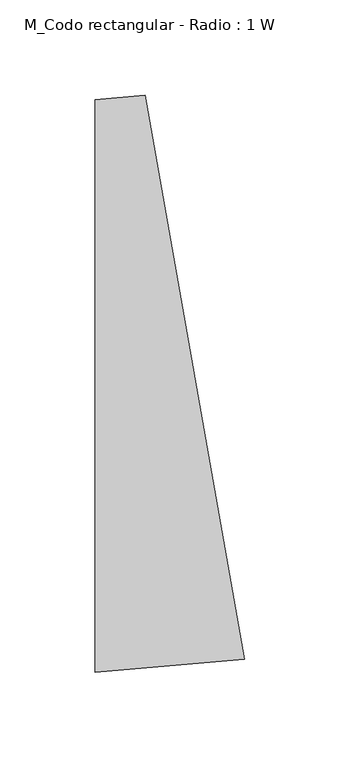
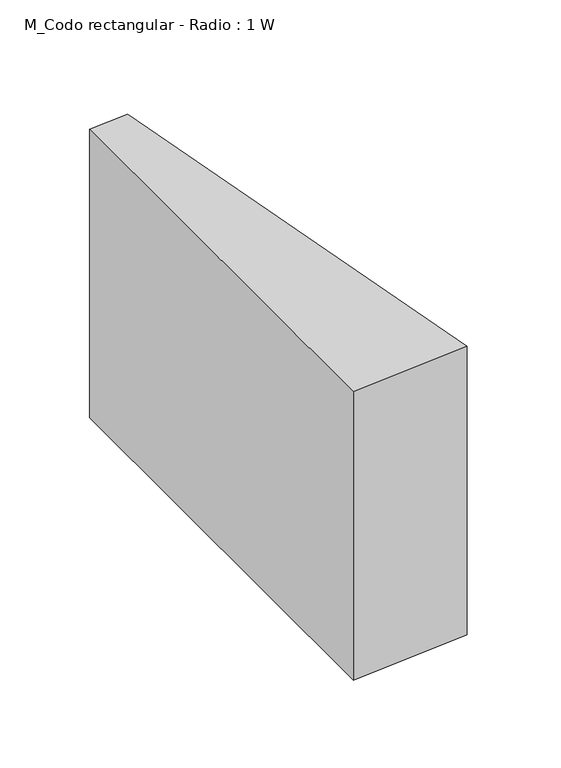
"""IFC4 building model written with IfcOpenShell, lengths in millimetres: duct fitting geometry, M_Codo rectangular - Radio : 1 W."""

import ifcopenshell
import ifcopenshell.guid

model = None  # the IFC model being written
_history = None  # IfcOwnerHistory: only IFC2X3 demands one
_inside = {}  # id of a spatial element -> (the spatial element, [elements in it])
_under = {}  # id of a project, library or spatial element -> (it, [spatial elements below it])
_declared = {}  # id of a project -> (the project, [libraries it declares])
_typed = {}  # id of a type object -> (the type object, [elements of that type])
_made_of = {}  # id of a material, layer set ... -> (it, [elements and type objects made of it])


def new_model(schema):
    """Start an empty IFC model of exactly this schema.

    Asked for "IFC4X3", IfcOpenShell would pick the latest addendum, in which some entities
    have other attributes; the version numbers below select the first issue.
    IFC2X3 requires an IfcOwnerHistory on every rooted entity: one is made here for all.
    """
    global model, _history
    if schema == "IFC4X3":
        model = ifcopenshell.file(schema_version=(4, 3, 0, 0))
    else:
        model = ifcopenshell.file(schema=schema)
    _inside.clear()
    _under.clear()
    _declared.clear()
    _typed.clear()
    _made_of.clear()
    _history = None
    if model.schema == "IFC2X3":
        org = make("IfcOrganization", Name="unknown")
        user = make(
            "IfcPersonAndOrganization",
            ThePerson=make("IfcPerson", FamilyName="unknown"),
            TheOrganization=org,
        )
        app = make(
            "IfcApplication",
            ApplicationDeveloper=org,
            Version="unknown",
            ApplicationFullName="unknown",
            ApplicationIdentifier="unknown",
        )
        _history = make(
            "IfcOwnerHistory",
            OwningUser=user,
            OwningApplication=app,
            ChangeAction="ADDED",
            CreationDate=0,
        )
    return model


def make(cls, **values):
    """One entity of the class cls with the attributes given. An attribute that is None is left unset."""
    return model.create_entity(
        cls, **{name: value for name, value in values.items() if value is not None}
    )


def rooted(cls, **values):
    """An entity with a GlobalId (a new one), such as an element, a storey or a relation."""
    return make(cls, GlobalId=ifcopenshell.guid.new(), OwnerHistory=_history, **values)


def si_unit(unit_type, name, prefix=None):
    """IfcSIUnit, for example si_unit("LENGTHUNIT", "METRE", prefix="MILLI")."""
    return make("IfcSIUnit", UnitType=unit_type, Prefix=prefix, Name=name)


def assignment(units):
    """IfcUnitAssignment: the units of a project."""
    return None if units is None else make("IfcUnitAssignment", Units=units)


def point(xyz):
    """IfcCartesianPoint."""
    return None if xyz is None else make("IfcCartesianPoint", Coordinates=xyz)


def direction(xyz):
    """IfcDirection."""
    return None if xyz is None else make("IfcDirection", DirectionRatios=xyz)


def frame(location, z_axis=None, x_axis=None):
    """IfcAxis2Placement3D, a coordinate frame: its origin and axes. An axis left out is left unset."""
    return make(
        "IfcAxis2Placement3D",
        Location=point(location),
        Axis=direction(z_axis),
        RefDirection=direction(x_axis),
    )


def frame_2d(location, x_axis=None):
    """IfcAxis2Placement2D, a coordinate frame in the plane: its origin and x axis."""
    return make(
        "IfcAxis2Placement2D", Location=point(location), RefDirection=direction(x_axis)
    )


def origin():
    """The frame at (0, 0, 0) with its axes left unset."""
    return frame((0.0, 0.0, 0.0))


def place(relative_to, where):
    """IfcLocalPlacement: puts the frame where relative to a parent placement (None: the world)."""
    return make(
        "IfcLocalPlacement", PlacementRelTo=relative_to, RelativePlacement=where
    )


def context(
    kind, dimensions, precision=None, world=None, true_north=None, identifier=None
):
    """IfcGeometricRepresentationContext, for example the 3D "Model" context."""
    return make(
        "IfcGeometricRepresentationContext",
        ContextIdentifier=identifier,
        ContextType=kind,
        CoordinateSpaceDimension=dimensions,
        Precision=precision,
        WorldCoordinateSystem=world,
        TrueNorth=true_north,
    )


def project(units=None, contexts=None):
    """IfcProject with its units and contexts."""
    return rooted(
        "IfcProject",
        Name="project",
        RepresentationContexts=contexts,
        UnitsInContext=assignment(units),
    )


def spatial(cls, under=None, at=None, **own):
    """A site, building, storey or space (cls), placed at a placement, below another one or the project."""
    s = rooted(cls, ObjectPlacement=at, **own)
    if under is not None:
        _under.setdefault(under.id(), (under, []))[1].append(s)
    return s


def polyline(points):
    """IfcPolyline through the points."""
    return make("IfcPolyline", Points=[point(p) for p in points])


def circle_curve(where, radius):
    """IfcCircle in the frame where."""
    return make("IfcCircle", Position=where, Radius=radius)


def trimmed(basis, trim1, trim2, sense, master):
    """IfcTrimmedCurve: the piece of a basis curve between two trims."""
    return make(
        "IfcTrimmedCurve",
        BasisCurve=basis,
        Trim1=trim1,
        Trim2=trim2,
        SenseAgreement=sense,
        MasterRepresentation=master,
    )


def segment(curve, same_sense, transition):
    """IfcCompositeCurveSegment."""
    return make(
        "IfcCompositeCurveSegment",
        Transition=transition,
        SameSense=same_sense,
        ParentCurve=curve,
    )


def composite_curve(segments, self_intersect=None):
    """IfcCompositeCurve: segments joined end to end."""
    return make("IfcCompositeCurve", Segments=segments, SelfIntersect=self_intersect)


def outline(outer, holes=None, kind="AREA"):
    """IfcArbitraryClosedProfileDef: a profile drawn as a closed curve; with holes, ...WithVoids."""
    if holes is None:
        return make("IfcArbitraryClosedProfileDef", ProfileType=kind, OuterCurve=outer)
    return make(
        "IfcArbitraryProfileDefWithVoids",
        ProfileType=kind,
        OuterCurve=outer,
        InnerCurves=holes,
    )


def extrude(swept, where, along, depth):
    """IfcExtrudedAreaSolid: the profile swept, set in the frame where, extruded along a direction by depth."""
    return make(
        "IfcExtrudedAreaSolid",
        SweptArea=swept,
        Position=where,
        ExtrudedDirection=direction(along),
        Depth=depth,
    )


def shape(context_of_items, identifier, shape_type, items):
    """IfcShapeRepresentation: the items that make up one representation, for example the "Body"."""
    return make(
        "IfcShapeRepresentation",
        ContextOfItems=context_of_items,
        RepresentationIdentifier=identifier,
        RepresentationType=shape_type,
        Items=items,
    )


def source(mapping_origin, context_of_items, identifier, shape_type, items):
    """IfcRepresentationMap: a shape defined once, which mapped items show again and again."""
    return make(
        "IfcRepresentationMap",
        MappingOrigin=mapping_origin,
        MappedRepresentation=shape(context_of_items, identifier, shape_type, items),
    )


def transform(
    local_origin,
    x_axis=None,
    y_axis=None,
    z_axis=None,
    scale=None,
    scale2=None,
    scale3=None,
    uniform=True,
):
    """IfcCartesianTransformationOperator3D, or its non-uniform kind. x_axis, y_axis, z_axis: its Axis1, 2, 3."""
    if uniform:
        return make(
            "IfcCartesianTransformationOperator3D",
            Axis1=direction(x_axis),
            Axis2=direction(y_axis),
            LocalOrigin=point(local_origin),
            Scale=scale,
            Axis3=direction(z_axis),
        )
    return make(
        "IfcCartesianTransformationOperator3DnonUniform",
        Axis1=direction(x_axis),
        Axis2=direction(y_axis),
        LocalOrigin=point(local_origin),
        Scale=scale,
        Axis3=direction(z_axis),
        Scale2=scale2,
        Scale3=scale3,
    )


def mapped(mapping_source, mapping_target):
    """IfcMappedItem: shows the shape of a source again, moved by a transform."""
    return make(
        "IfcMappedItem", MappingSource=mapping_source, MappingTarget=mapping_target
    )


def made_of(thing, what):
    """Note that an element or type object is made of a material, layer set ...; save() writes the relation."""
    if what is not None:
        _made_of.setdefault(what.id(), (what, []))[1].append(thing)
    return thing


def element(
    cls,
    number,
    at=None,
    inside=None,
    cuts=None,
    type_object=None,
    material=None,
    context=None,
    identifier="Body",
    shape_type=None,
    held_by="IfcProductDefinitionShape",
    body=None,
    shapes=None,
    **own,
):
    """One element of the class cls, such as IfcWall. Its Tag is "e" and its number.

    at: its placement. inside: the storey or other place that contains it. cuts: it is an
    opening in that element (IfcRelVoidsElement). A single representation is given by context,
    identifier, shape_type and body (its items); several are given by shapes. held_by: the class
    of the entity that holds the representations. save() writes the other relations.
    """
    e = rooted(cls, Tag="e%d" % number, ObjectPlacement=at, **own)
    if body is not None:
        shapes = [shape(context, identifier, shape_type, body)]
    if shapes is not None:
        e.Representation = make(held_by, Representations=shapes)
    if inside is not None:
        _inside.setdefault(inside.id(), (inside, []))[1].append(e)
    if cuts is not None:
        rooted(
            "IfcRelVoidsElement", RelatingBuildingElement=cuts, RelatedOpeningElement=e
        )
    if type_object is not None:
        _typed.setdefault(type_object.id(), (type_object, []))[1].append(e)
    return made_of(e, material)


def aggregate(whole, parts):
    """IfcRelAggregates: a whole, such as a stair, and the parts it consists of."""
    return rooted("IfcRelAggregates", RelatingObject=whole, RelatedObjects=parts)


def save(model, path):
    """Write the relations noted so far, then the file.

    IfcRelAggregates (storeys below a building ...), IfcRelContainedInSpatialStructure (elements
    in a storey), IfcRelDefinesByType, IfcRelAssociatesMaterial and IfcRelDeclares: one each for
    every whole, place, type object, material and project.
    """
    for whole, parts in _under.values():
        aggregate(whole, parts)
    for where, things in _inside.values():
        rooted(
            "IfcRelContainedInSpatialStructure",
            RelatedElements=things,
            RelatingStructure=where,
        )
    for kind, things in _typed.values():
        rooted("IfcRelDefinesByType", RelatedObjects=things, RelatingType=kind)
    for what, things in _made_of.values():
        rooted("IfcRelAssociatesMaterial", RelatedObjects=things, RelatingMaterial=what)
    for by, libraries in _declared.values():
        rooted("IfcRelDeclares", RelatingContext=by, RelatedDefinitions=libraries)
    model.write(path)


def m_codo_rectangular_radio_1_w_4a64b7bd(model_context):
    return source(origin(), model_context, "Body", "SweptSolid", [
        extrude(outline(composite_curve([segment(trimmed(circle_curve(frame_2d((-26.2465991, 300.0)), 450.0), [point((51.8950809, -143.1634889))], [point((-26.2465991, -150.0))], False, "CARTESIAN"), True, "CONTINUOUS"), segment(polyline([(-26.2465991, -150.0), (-26.2465991, 150.0)]), True, "CONTINUOUS"), segment(trimmed(circle_curve(frame_2d((-26.2465991, 300.0)), 150.0), [point((-26.2465991, 150.0))], [point((-0.1993724, 152.278837))], True, "CARTESIAN"), True, "CONTINUOUS"), segment(polyline([(-0.1993724, 152.278837), (51.8950809, -143.1634889)]), True, "CONTINUOUS")], self_intersect=False)), frame((0.0, 0.0, -100.0), z_axis=(0.0, 0.0, 1.0), x_axis=(1.0, 0.0, 0.0)), (0.0, 0.0, 1.0), 200.0),
    ])


if __name__ == "__main__":
    model = new_model("IFC4")
    model_context = context("Model", 3, world=origin())
    ifc_project = project(units=[si_unit("LENGTHUNIT", "METRE", prefix="MILLI")], contexts=[model_context])
    site = spatial("IfcSite", under=ifc_project)
    building = spatial("IfcBuilding", under=site)
    placement = place(None, origin())
    m_codo_rectangular_radio_1_w_shape = m_codo_rectangular_radio_1_w_4a64b7bd(model_context)
    element("IfcDuctFitting", 1, ObjectType="M_Codo rectangular - Radio : 1 W", at=placement, inside=building, context=model_context, shape_type="MappedRepresentation", body=[
        mapped(m_codo_rectangular_radio_1_w_shape, transform((0.0, 0.0, 0.0), x_axis=(1.0, 0.0, 0.0), y_axis=(0.0, 1.0, 0.0), z_axis=(0.0, 0.0, 1.0))),
    ])
    save(model, "model.ifc")
